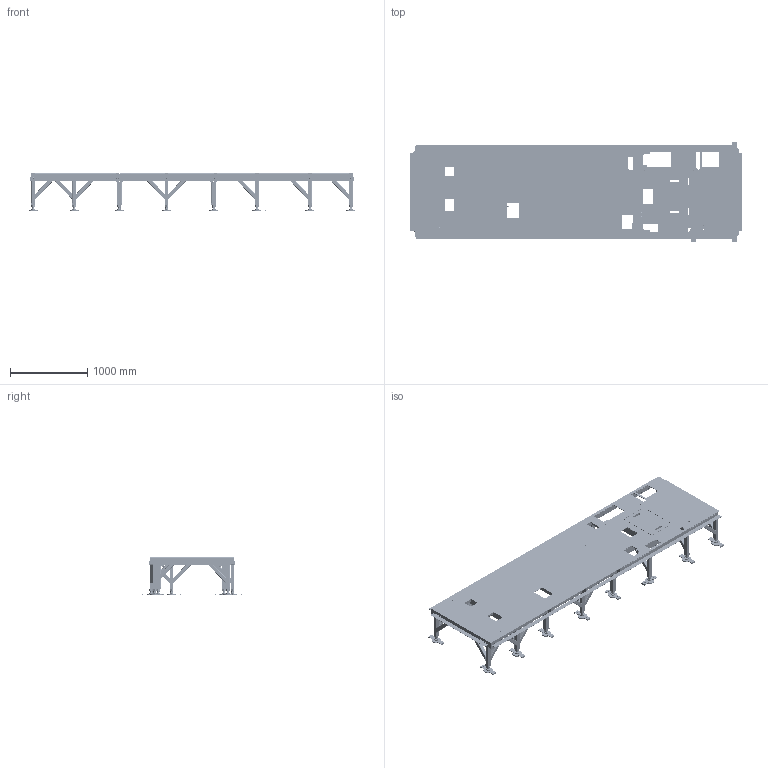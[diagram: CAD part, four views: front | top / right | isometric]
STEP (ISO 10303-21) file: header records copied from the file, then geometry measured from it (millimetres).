
FILE_DESCRIPTION (( 'STEP AP214' ), '1' );
FILE_NAME ('TEL36-FAU-02.STEP', '2025-07-01T08:18:14', ( '' ), ( '' ), 'SwSTEP 2.0', 'SolidWorks 2017', '' );
FILE_SCHEMA (( 'AUTOMOTIVE_DESIGN' ));
Length unit declared in the file: millimetre
Products named in the file (40): Z-ECROU HM30_‚crou h M30; TEL36-FAU-PIED-SOUDE-TUBE1_c12; TEL36-FAU-03; TEL36-FAU-PIED-SOUDE-TUBE2_c12-fix; TEL36-FAU-08_dwg; TEL36-FAU-PIED-SOUDE_1b2; TEL36-FAU-PIED-SOUDE-TUBE3_50X50<Brut d''usinage>; TEL36-FAU-11-A_D‚faut<Brut d''usinage>; TEL36-FAU-11-B_D‚faut<Brut d''usinage>; TEL36-FAU-10_ens-cent12; Z-Tige filetée - M12-tel35_M12x150; TEL36-FAU-PIED-SOUDE-TUBE2_60; TEL36-FAU-CADRE_cadre33<Brut d''usinage>; z_Screw_H FAURE_SCREW H M8x20-20; TEL36-FAU-PIED-SOUDE_defo2; TEL36-FAU-PIED-SOUDE-TUBE3_60X60<Brut d''usinage>; TEL36-FAU-12; Z-vis pied m30x120; TEL36-FAU-CADRE_cadre11<Brut d''usinage>; TEL36-FAU-09; TEL36-FAU-02; z_Washer-tel35_WASHER M 12; TEL36-FAU-07_cadre2; TEL36-FAU-PIED-SOUDE; TEL36-FAU-PIED-SOUDE_triple2; TEL36-FAU-07_cadre 3; TEL36-FAU-08; TEL36-FAU-CADRE_cadre22<Brut d''usinage>; TEL36-FAU-11-C_D‚faut<Brut d''usinage>; z_Washer-tel35_WASHER M 10; TEL36-FAU-07_cadre1; Z-Vis H M10_vis H M10-30; TEL36-FAU-PIED-SOUDE-PLATINE_trous-lisses; TEL36-FAU-PIED-SOUDE_1 bracons; z_NUT_H-tel35_NUT H M 12; TEL36-FAU-04; Z-ecrous a sertir  rivklé _ecrous a sertir M12 tole 7.5-10.5 ref 233 11 120 105 rivkl‚; Z-M12 ASSY-tel35; z_Washer-tel35_WASHER Z 8
Assembly tree (207 placements, depth 6):
  TEL36-FAU-02
    TEL36-FAU-07_cadre 3
      TEL36-FAU-CADRE_cadre33<Brut d''usinage>
      TEL36-FAU-PIED-SOUDE_triple2  x2
        TEL36-FAU-PIED-SOUDE-TUBE1_c12
        TEL36-FAU-PIED-SOUDE-TUBE2_c12-fix
          TEL36-FAU-PIED-SOUDE-TUBE3_50X50<Brut d''usinage>
          TEL36-FAU-08_dwg
            TEL36-FAU-08
            Z-ECROU HM30_‚crou h M30
            Z-vis pied m30x120
        TEL36-FAU-09
          TEL36-FAU-09  x2
      TEL36-FAU-PIED-SOUDE_defo2
        TEL36-FAU-PIED-SOUDE-TUBE1_c12  x2
        TEL36-FAU-PIED-SOUDE-TUBE2_c12-fix
          TEL36-FAU-PIED-SOUDE-TUBE3_50X50<Brut d''usinage>
          TEL36-FAU-08_dwg
            TEL36-FAU-08
            Z-ECROU HM30_‚crou h M30
            Z-vis pied m30x120
        TEL36-FAU-09
          TEL36-FAU-09  x2
      TEL36-FAU-PIED-SOUDE
        TEL36-FAU-PIED-SOUDE-TUBE1_c12  x2
        TEL36-FAU-PIED-SOUDE-TUBE2_c12-fix
          TEL36-FAU-PIED-SOUDE-TUBE3_50X50<Brut d''usinage>
          TEL36-FAU-08_dwg
            TEL36-FAU-08
            Z-ECROU HM30_‚crou h M30
            Z-vis pied m30x120
        TEL36-FAU-09
          TEL36-FAU-09  x2
    TEL36-FAU-07_cadre2
      TEL36-FAU-CADRE_cadre22<Brut d''usinage>
      TEL36-FAU-PIED-SOUDE_triple2  x2
        TEL36-FAU-PIED-SOUDE-TUBE1_c12
        TEL36-FAU-PIED-SOUDE-TUBE2_c12-fix
          TEL36-FAU-PIED-SOUDE-TUBE3_50X50<Brut d''usinage>
          TEL36-FAU-08_dwg
            TEL36-FAU-08
            Z-ECROU HM30_‚crou h M30
            Z-vis pied m30x120
        TEL36-FAU-09
          TEL36-FAU-09  x2
    TEL36-FAU-07_cadre1
      TEL36-FAU-CADRE_cadre11<Brut d''usinage>
      TEL36-FAU-PIED-SOUDE_1 bracons  x4
        TEL36-FAU-PIED-SOUDE-TUBE1_c12
        TEL36-FAU-PIED-SOUDE-TUBE2_c12-fix
          TEL36-FAU-PIED-SOUDE-TUBE3_50X50<Brut d''usinage>
          TEL36-FAU-08_dwg
            TEL36-FAU-08
            Z-ECROU HM30_‚crou h M30
            Z-vis pied m30x120
        TEL36-FAU-09
          TEL36-FAU-09  x2
      TEL36-FAU-PIED-SOUDE  x2
        TEL36-FAU-PIED-SOUDE-TUBE1_c12
        TEL36-FAU-PIED-SOUDE-TUBE2_c12-fix
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Bounding box: 4300 x 1283 x 500 mm (x, y, z)
Volume: 83109095.9 mm3; surface area: 42061200.6 mm2
Topology: 414 solids, 414 shells, 7527 faces, 18608 edges, 12007 vertices
Faces by surface type: plane 3425, cylinder 2908, cone 1156, bspline 34, torus 4
Entity records: 126707 total; most frequent: CARTESIAN_POINT 21311, DIRECTION 20571, ORIENTED_EDGE 18844, EDGE_CURVE 9422, AXIS2_PLACEMENT_3D 7665, VERTEX_POINT 6187, LINE 5241, VECTOR 5241
